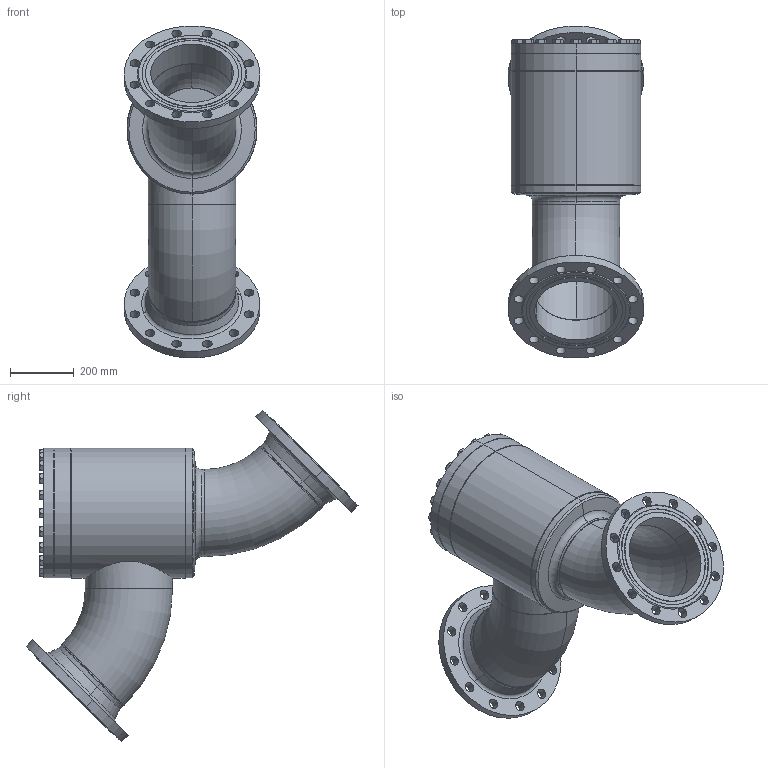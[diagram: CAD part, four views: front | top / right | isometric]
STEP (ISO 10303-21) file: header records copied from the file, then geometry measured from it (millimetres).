
FILE_DESCRIPTION (( 'STEP AP214' ), '1' );
FILE_NAME ('SS52320C24-DN250_DIN-FL-N_PS25.STEP', '2006-05-02T05:45:45', ( 'Herr Grams' ), ( 'AWP GmbH' ), 'SwSTEP 2.0', 'SolidWorks 2002296', '' );
FILE_SCHEMA (( 'AUTOMOTIVE_DESIGN' ));
Length unit declared in the file: millimetre
Products named in the file (18): SS52320C24-DN250_DIN-FL-N_PS25; SS52300B24_Deck+Schr-DN250_Standard; Deckel52300B24-DN250_Standard; Sechskantschraube-DIN933_M20x 60; Gehäuse-kpl26320-DN250_DIN_PS25_Standard; Flansch-DIN2634-Nut_PS25_DIN-Flansch-DN250_PS25-Nut; Gehäuse-kpl26300-DN250_R1_Standard; Rohrstutzen-A26300-DN250_R1_Standard; Boden26300-DN250_Standard; Gehäuse26300-DN250_Standard; Kopfstück26300-DN250_Standard; Rohrbogen 45°_Rohrbogen-DN250-45°; bead-DN250-1_Standard; bead-DN250-4_Standard; bead-DN250-3_Standard; bead-DN250-2_Standard; bead-DN250-7_Standard; bead-DN250-6_Standard
Assembly tree (38 placements, depth 4):
  SS52320C24-DN250_DIN-FL-N_PS25
    SS52300B24_Deck+Schr-DN250_Standard
      Sechskantschraube-DIN933_M20x 60  x20
      Deckel52300B24-DN250_Standard
    Gehäuse-kpl26320-DN250_DIN_PS25_Standard
      bead-DN250-6_Standard
      Flansch-DIN2634-Nut_PS25_DIN-Flansch-DN250_PS25-Nut  x2
      bead-DN250-7_Standard
      Gehäuse-kpl26300-DN250_R1_Standard
        bead-DN250-2_Standard
        Rohrstutzen-A26300-DN250_R1_Standard
        Boden26300-DN250_Standard
        bead-DN250-4_Standard
        Rohrbogen 45°_Rohrbogen-DN250-45°  x2
        bead-DN250-1_Standard
        Gehäuse26300-DN250_Standard
        Kopfstück26300-DN250_Standard
        bead-DN250-3_Standard
Bounding box: 423.38 x 1039 x 1038 mm (x, y, z)
Volume: 29552256.8 mm3; surface area: 3952978.7 mm2
Topology: 35 solids, 35 shells, 743 faces, 1694 edges, 1024 vertices
Faces by surface type: cone 308, plane 220, cylinder 177, bspline 24, torus 14
Entity records: 12356 total; most frequent: CARTESIAN_POINT 6121, DIRECTION 1154, ORIENTED_EDGE 1080, EDGE_CURVE 540, AXIS2_PLACEMENT_3D 508, VERTEX_POINT 346, EDGE_LOOP 296, CIRCLE 274
